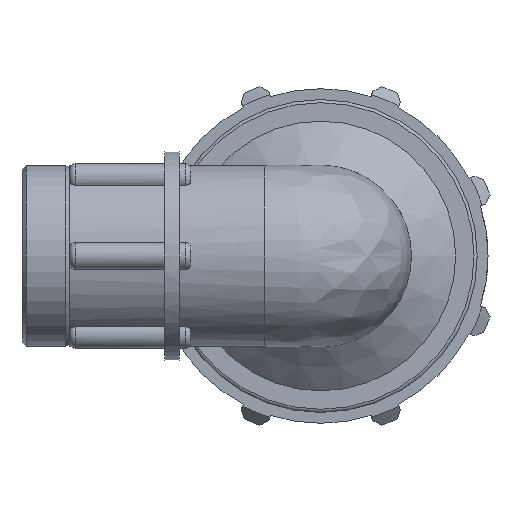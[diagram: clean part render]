
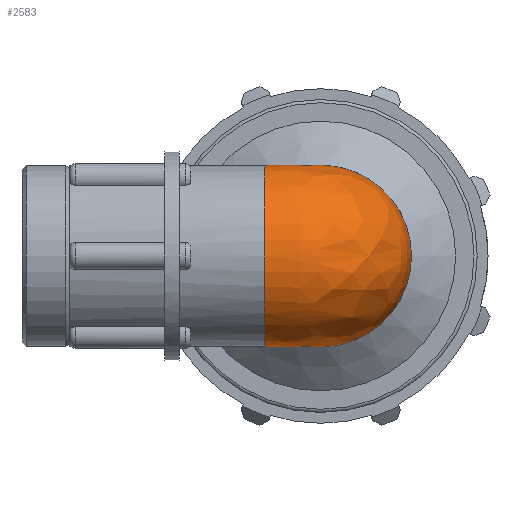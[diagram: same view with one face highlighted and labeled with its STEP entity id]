
A CAD part, left-side view. The second image highlights one B-rep face of the part: STEP entity #2583.
In plain terms, the highlighted free-form (B-spline) face has degree [2, 2] with [7, 3] control points.
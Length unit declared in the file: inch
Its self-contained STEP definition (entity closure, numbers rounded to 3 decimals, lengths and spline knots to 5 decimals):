
#62=(
BOUNDED_SURFACE()
B_SPLINE_SURFACE(2,2,((#4408,#4409,#4410),(#4411,#4412,#4413),(#4414,#4415,
#4416),(#4417,#4418,#4419),(#4420,#4421,#4422),(#4423,#4424,#4425),(#4426,
#4427,#4428)),.UNSPECIFIED.,.F.,.F.,.F.)
B_SPLINE_SURFACE_WITH_KNOTS((3,2,2,3),(3,3),(-2.23367,-0.74456,
0.74456,2.23367),(-3.14159,-1.5708),
 .UNSPECIFIED.)
GEOMETRIC_REPRESENTATION_ITEM()
RATIONAL_B_SPLINE_SURFACE(((1.,0.707,1.),(0.735,
0.52,0.735),(1.,0.707,1.),(0.735,
0.52,0.735),(1.,0.707,1.),(0.735,
0.52,0.735),(1.,0.707,1.)))
REPRESENTATION_ITEM('')
SURFACE()
);
#510=FACE_OUTER_BOUND('',#649,.T.);
#649=EDGE_LOOP('',(#1870,#1871));
#824=CIRCLE('',#2810,0.47678);
#832=CIRCLE('',#2828,0.47678);
#1048=VERTEX_POINT('',#4346);
#1049=VERTEX_POINT('',#4348);
#1348=EDGE_CURVE('',#1049,#1048,#824,.T.);
#1357=EDGE_CURVE('',#1049,#1048,#832,.T.);
#1870=ORIENTED_EDGE('',*,*,#1348,.T.);
#1871=ORIENTED_EDGE('',*,*,#1357,.F.);
#2583=ADVANCED_FACE('',(#510),#62,.F.);
#2810=AXIS2_PLACEMENT_3D('',#4349,#3284,#3285);
#2828=AXIS2_PLACEMENT_3D('',#4368,#3320,#3321);
#3284=DIRECTION('center_axis',(0.,-1.,0.));
#3285=DIRECTION('ref_axis',(-1.,0.,0.));
#3320=DIRECTION('center_axis',(1.,0.,0.));
#3321=DIRECTION('ref_axis',(0.,-1.,0.));
#4346=CARTESIAN_POINT('',(0.2934,0.2934,-0.37581));
#4348=CARTESIAN_POINT('',(0.2934,0.2934,0.37581));
#4349=CARTESIAN_POINT('Origin',(0.,0.2934,0.));
#4368=CARTESIAN_POINT('Origin',(0.2934,0.,0.));
#4408=CARTESIAN_POINT('Ctrl Pts',(0.2934,0.2934,-0.37581));
#4409=CARTESIAN_POINT('Ctrl Pts',(0.2934,0.2934,-0.37581));
#4410=CARTESIAN_POINT('Ctrl Pts',(0.2934,0.2934,-0.37581));
#4411=CARTESIAN_POINT('Ctrl Pts',(-0.0529,0.2934,-0.64617));
#4412=CARTESIAN_POINT('Ctrl Pts',(-0.0529,-0.0529,
-0.64617));
#4413=CARTESIAN_POINT('Ctrl Pts',(0.2934,-0.0529,
-0.64617));
#4414=CARTESIAN_POINT('Ctrl Pts',(-0.35062,0.2934,-0.32309));
#4415=CARTESIAN_POINT('Ctrl Pts',(-0.35062,-0.35062,-0.32309));
#4416=CARTESIAN_POINT('Ctrl Pts',(0.2934,-0.35062,-0.32309));
#4417=CARTESIAN_POINT('Ctrl Pts',(-0.64833,0.2934,0.));
#4418=CARTESIAN_POINT('Ctrl Pts',(-0.64833,-0.64833,
0.));
#4419=CARTESIAN_POINT('Ctrl Pts',(0.2934,-0.64833,0.));
#4420=CARTESIAN_POINT('Ctrl Pts',(-0.35062,0.2934,0.32309));
#4421=CARTESIAN_POINT('Ctrl Pts',(-0.35062,-0.35062,0.32309));
#4422=CARTESIAN_POINT('Ctrl Pts',(0.2934,-0.35062,0.32309));
#4423=CARTESIAN_POINT('Ctrl Pts',(-0.0529,0.2934,0.64617));
#4424=CARTESIAN_POINT('Ctrl Pts',(-0.0529,-0.0529,
0.64617));
#4425=CARTESIAN_POINT('Ctrl Pts',(0.2934,-0.0529,
0.64617));
#4426=CARTESIAN_POINT('Ctrl Pts',(0.2934,0.2934,0.37581));
#4427=CARTESIAN_POINT('Ctrl Pts',(0.2934,0.2934,0.37581));
#4428=CARTESIAN_POINT('Ctrl Pts',(0.2934,0.2934,0.37581));
